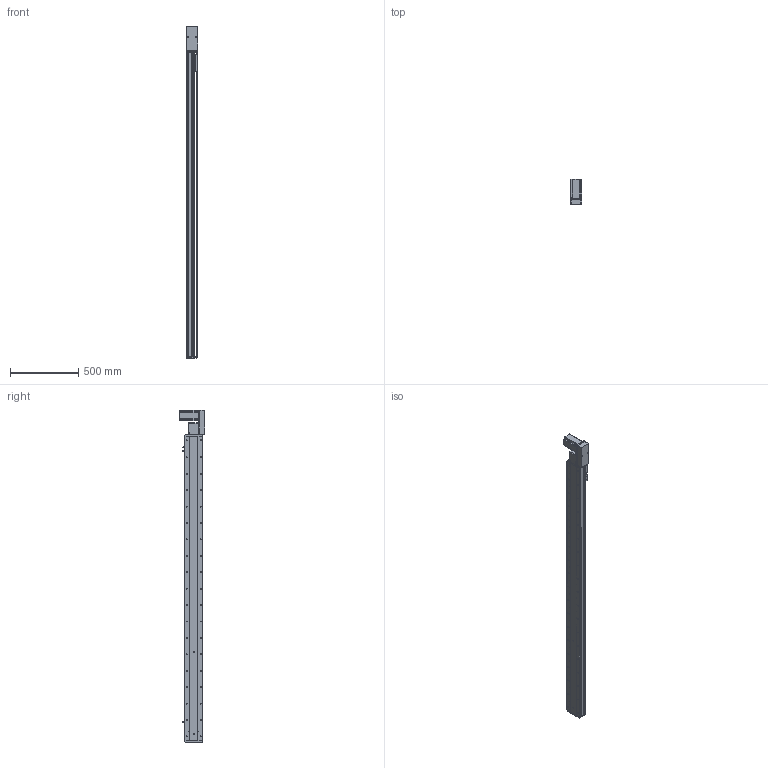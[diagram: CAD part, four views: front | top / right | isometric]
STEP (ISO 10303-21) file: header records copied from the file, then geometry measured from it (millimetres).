
FILE_DESCRIPTION (( 'STEP AP214' ), '1' );
FILE_NAME ('KSD130B-S2000-MLB-CM.STEP', '2019-09-19T09:06:10', ( '微软用户' ), ( '微软中国' ), 'SwSTEP 2.0', 'SolidWorks 2014', '' );
FILE_SCHEMA (( 'AUTOMOTIVE_DESIGN' ));
Length unit declared in the file: millimetre
Products named in the file (12): 130宽同步带安装座半封闭; 130宽端盖同步带半封闭; 130宽底板半封闭同步带-2000行程; KSD130B-S2000-MLB-CM; 台达ECMA－C20807AS伺服电机; 130宽模组保护罩上下左右折-同步带; 130宽模组马达安装板连板左右折同步带; 覜茼え100遵圉猾敕; U倰嫖萇EEㄜSX672; 130宽盖板半封闭同步带-2000行程; 130宽马达安装板同步带左-改; 130宽马达安装板同步带半封闭
Assembly tree (13 placements, depth 2):
  KSD130B-S2000-MLB-CM
    130宽底板半封闭同步带-2000行程
    130宽端盖同步带半封闭
    130宽同步带安装座半封闭
    130宽马达安装板同步带半封闭
    130宽马达安装板同步带左-改
    130宽盖板半封闭同步带-2000行程
    U倰嫖萇EEㄜSX672  x3
    覜茼え100遵圉猾敕
    130宽模组马达安装板连板左右折同步带
    130宽模组保护罩上下左右折-同步带
    台达ECMA－C20807AS伺服电机
Bounding box: 82.5 x 184.8 x 2427 mm (x, y, z)
Volume: 7685981.1 mm3; surface area: 2189694 mm2
Topology: 14 solids, 14 shells, 1787 faces, 5221 edges, 3301 vertices
Faces by surface type: cylinder 886, plane 658, cone 243
Entity records: 61399 total; most frequent: CARTESIAN_POINT 11982, DIRECTION 9227, ORIENTED_EDGE 8942, EDGE_CURVE 4471, AXIS2_PLACEMENT_3D 3406, VERTEX_POINT 2925, LINE 2415, VECTOR 2415
